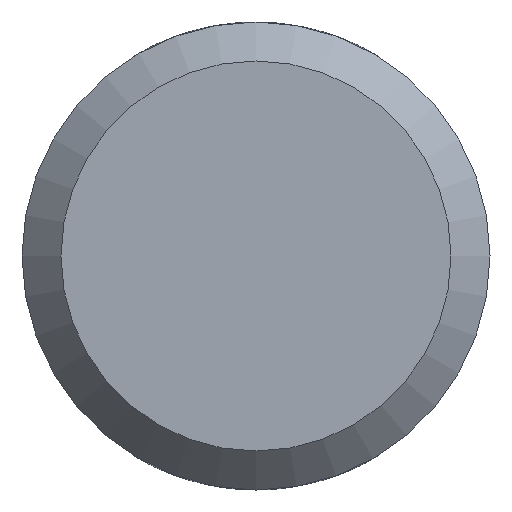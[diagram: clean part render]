
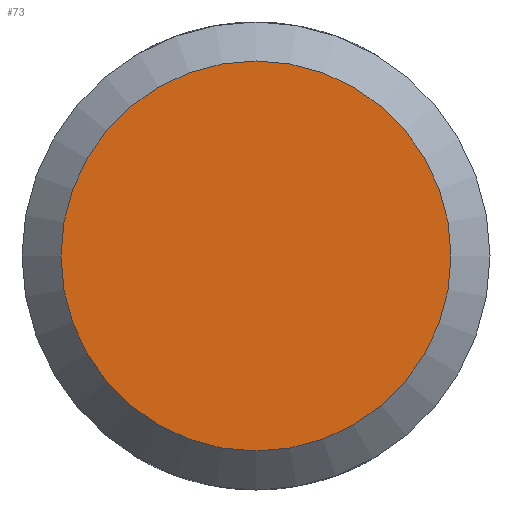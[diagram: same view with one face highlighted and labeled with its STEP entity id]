
A CAD part, front view. The second image highlights one B-rep face of the part: STEP entity #73.
In plain terms, the highlighted planar face has unit normal (0, -1, 0).
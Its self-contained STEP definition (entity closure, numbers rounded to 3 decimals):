
#59=PLANE('',#122);
#62=CIRCLE('',#121,5.);
#73=ADVANCED_FACE('',(#81),#59,.F.);
#81=FACE_OUTER_BOUND('',#89,.T.);
#89=EDGE_LOOP('',(#99));
#99=ORIENTED_EDGE('',*,*,#111,.T.);
#106=VERTEX_POINT('',#206);
#111=EDGE_CURVE('',#106,#106,#62,.T.);
#121=AXIS2_PLACEMENT_3D('',#205,#138,#139);
#122=AXIS2_PLACEMENT_3D('',#207,#140,#141);
#138=DIRECTION('',(0.,-1.,0.));
#139=DIRECTION('',(0.,0.,1.));
#140=DIRECTION('',(0.,1.,0.));
#141=DIRECTION('',(0.,0.,1.));
#205=CARTESIAN_POINT('',(0.,-150.,0.));
#206=CARTESIAN_POINT('',(0.,-150.,5.));
#207=CARTESIAN_POINT('',(0.,-150.,0.));
